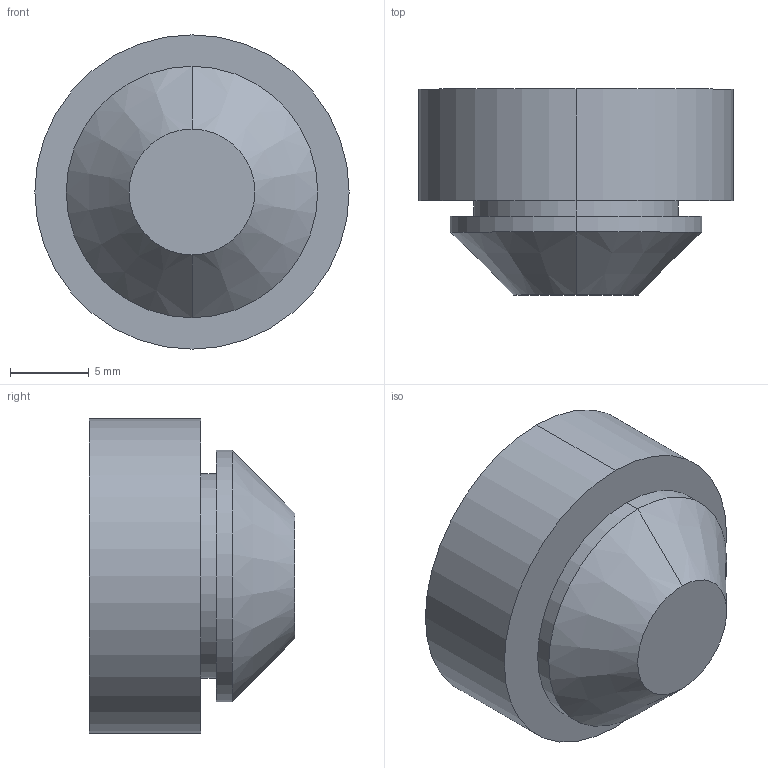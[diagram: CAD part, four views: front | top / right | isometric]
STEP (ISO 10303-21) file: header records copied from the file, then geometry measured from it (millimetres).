
FILE_DESCRIPTION (( 'STEP AP203' ), '1' );
FILE_NAME ('104010.STEP', '2012-10-29T10:54:04', ( 'Joni' ), ( 'Hewlett-Packard Company' ), 'SwSTEP 2.0', 'SolidWorks 2012', '' );
FILE_SCHEMA (( 'CONFIG_CONTROL_DESIGN' ));
Length unit declared in the file: millimetre
Products named in the file (1): 104010
Bounding box: 20 x 13.1 x 20 mm (x, y, z)
Volume: 3033.5 mm3; surface area: 1364.7 mm2
Topology: 1 solids, 1 shells, 12 faces, 22 edges, 14 vertices
Faces by surface type: cylinder 6, plane 4, cone 2
Entity records: 381 total; most frequent: DIRECTION 62, CARTESIAN_POINT 49, ORIENTED_EDGE 44, AXIS2_PLACEMENT_3D 27, EDGE_CURVE 22, CIRCLE 14, EDGE_LOOP 14, VERTEX_POINT 14
